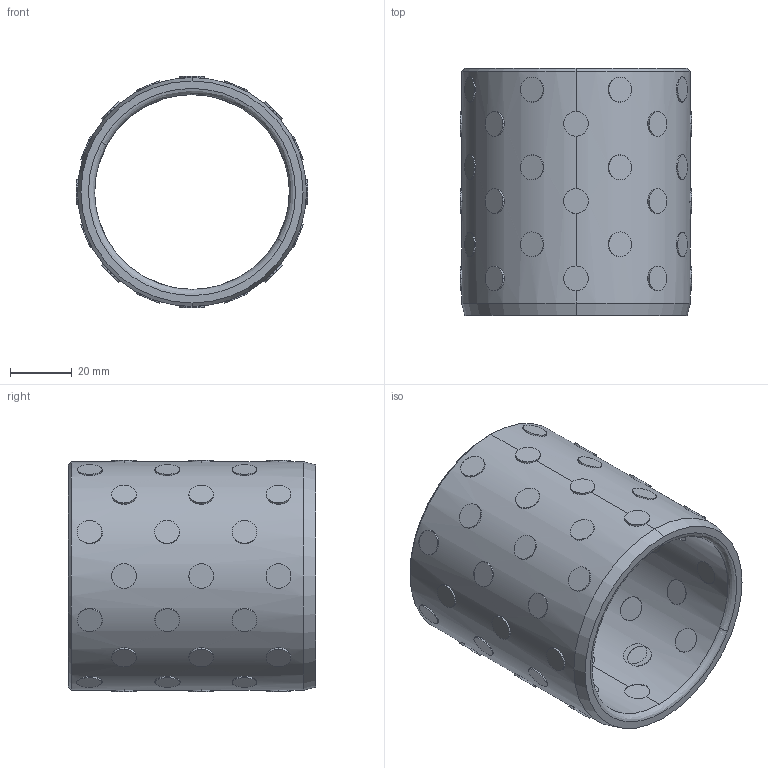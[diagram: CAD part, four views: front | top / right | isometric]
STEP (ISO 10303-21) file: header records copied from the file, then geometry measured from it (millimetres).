
FILE_DESCRIPTION (( 'STEP AP214' ), '1' );
FILE_NAME ('D30.04_638074.STEP', '2011-12-24T19:56:10', ( 'Dell' ), ( '' ), 'SwSTEP 2.0', 'SolidWorks 2010', '' );
FILE_SCHEMA (( 'AUTOMOTIVE_DESIGN' ));
Length unit declared in the file: millimetre
Products named in the file (5): D30.04_638074; 1_12_Varsayýlan; Gathered Part15 on CircPattern.11_12_Varsayýlan; Part15_12_Varsayýlan; Gathered Part15 on CircPattern.2_12_Varsayýlan
Assembly tree (53 placements, depth 3):
  D30.04_638074
    Part15_12_Varsayýlan  x6
    Gathered Part15 on CircPattern.2_12_Varsayýlan
      Part15_12_Varsayýlan  x22
    Gathered Part15 on CircPattern.11_12_Varsayýlan
      Part15_12_Varsayýlan  x22
    1_12_Varsayýlan
Bounding box: 75 x 80 x 75 mm (x, y, z)
Volume: 95480.7 mm3; surface area: 50486.1 mm2
Topology: 51 solids, 51 shells, 310 faces, 656 edges, 436 vertices
Faces by surface type: cylinder 200, plane 102, bspline 4, cone 4
Entity records: 10882 total; most frequent: CARTESIAN_POINT 7426, ORIENTED_EDGE 724, DIRECTION 502, EDGE_CURVE 362, VERTEX_POINT 240, B_SPLINE_CURVE_WITH_KNOTS 218, EDGE_LOOP 200, AXIS2_PLACEMENT_3D 192
